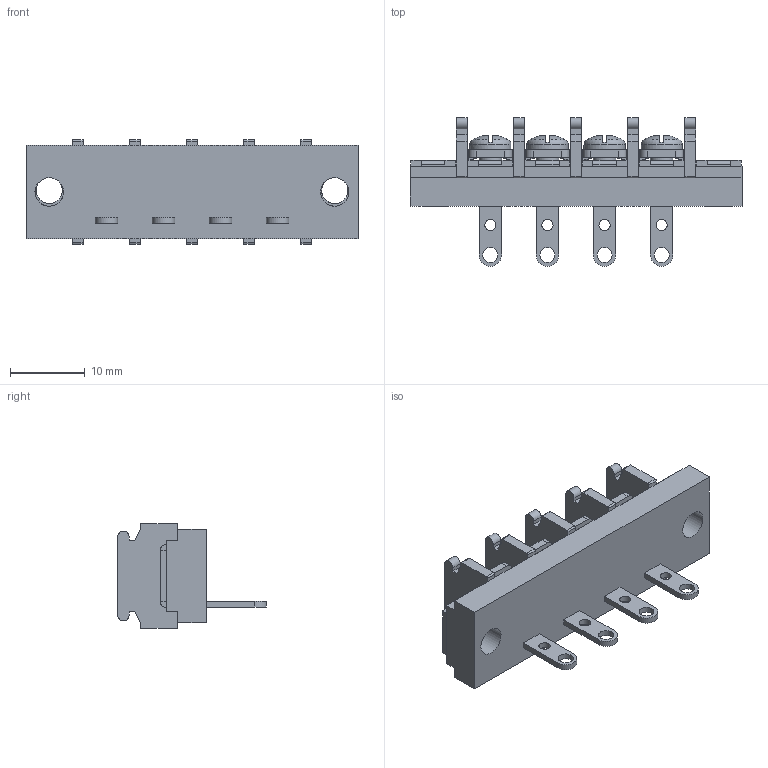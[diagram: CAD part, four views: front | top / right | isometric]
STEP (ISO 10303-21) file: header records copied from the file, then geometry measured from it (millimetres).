
FILE_DESCRIPTION(/* description */ ('Alibre Inc.'),/* implementation_level */ '2;1');
FILE_NAME(/* name */ 'export0',/* time_stamp */ '2015-10-23T19:59:40+09:00',/* author */ (''),/* organization */ (''),/* preprocessor_version */ 'ST-DEVELOPER v14',/* originating_system */ 'Alibre',/* authorisation */ '');
FILE_SCHEMA (('CONFIG_CONTROL_DESIGN'));
Length unit declared in the file: centimetre
Products named in the file (1): ID_1
Bounding box: 44.3 x 19.8 x 14 mm (x, y, z)
Volume: 3824.4 mm3; surface area: 3816.3 mm2
Topology: 1 solids, 17 shells, 916 faces, 2472 edges, 1628 vertices
Faces by surface type: plane 694, bspline 104, cylinder 86, cone 16, torus 8, sphere 8
Full cylindrical faces by diameter (mm): 1.5 x4, 2 x4, 3 x4, 3.5 x2, 3.8 x2, 5.5 x4
Entity records: 27405 total; most frequent: CARTESIAN_POINT 6153, ORIENTED_EDGE 4848, DIRECTION 3266, EDGE_CURVE 2424, VECTOR 1796, LINE 1796, VERTEX_POINT 1608, AXIS2_PLACEMENT_3D 1053
